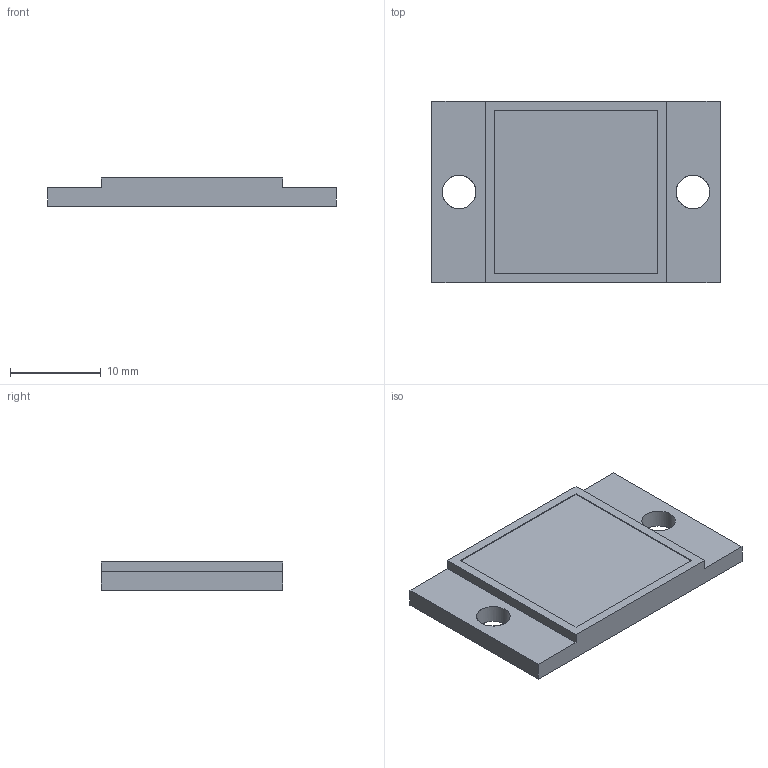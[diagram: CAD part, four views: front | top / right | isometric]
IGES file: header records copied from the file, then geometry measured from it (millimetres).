
Global section: file name: 3DCAD_MTKS_20x20_SC.igs; native system: NX V2306; preprocessor: SIEMENS PLM Software NX2306.1700; date: 20240422.111129; units: millimetre
Bounding box: 31.8 x 20 x 3.1 mm (x, y, z)
Surface area: 1593 mm2 (no closed solid volume)
Topology: 0 solids, 0 shells, 209 faces, 1144 edges, 1140 vertices
Faces by surface type: bspline 209
